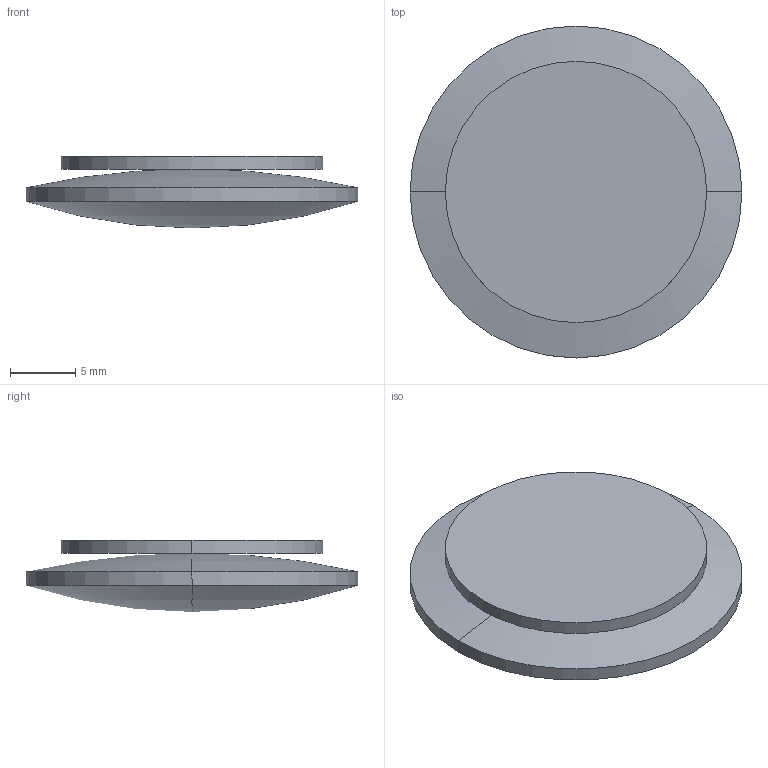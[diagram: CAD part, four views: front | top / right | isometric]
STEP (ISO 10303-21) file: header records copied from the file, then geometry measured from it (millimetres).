
FILE_DESCRIPTION(('STEP AP214'),'1');
FILE_NAME('LLG-25-40.STEP','2020-03-09T17:41:33',(' '),(' '),'Spatial InterOp 3D',' ',' ');
FILE_SCHEMA(('AUTOMOTIVE_DESIGN { 1 0 10303 214 1 1 1 1 }'));
Length unit declared in the file: millimetre
Products named in the file (1): 1
Bounding box: 25.4 x 25.4 x 5.5 mm (x, y, z)
Volume: 1725.2 mm3; surface area: 1807.3 mm2
Topology: 2 solids, 2 shells, 10 faces, 20 edges, 10 vertices
Faces by surface type: sphere 4, cylinder 4, plane 2
Entity records: 255 total; most frequent: DIRECTION 52, CARTESIAN_POINT 38, ORIENTED_EDGE 32, AXIS2_PLACEMENT_3D 24, EDGE_CURVE 16, CIRCLE 12, ADVANCED_FACE 10, FACE_OUTER_BOUND 10
